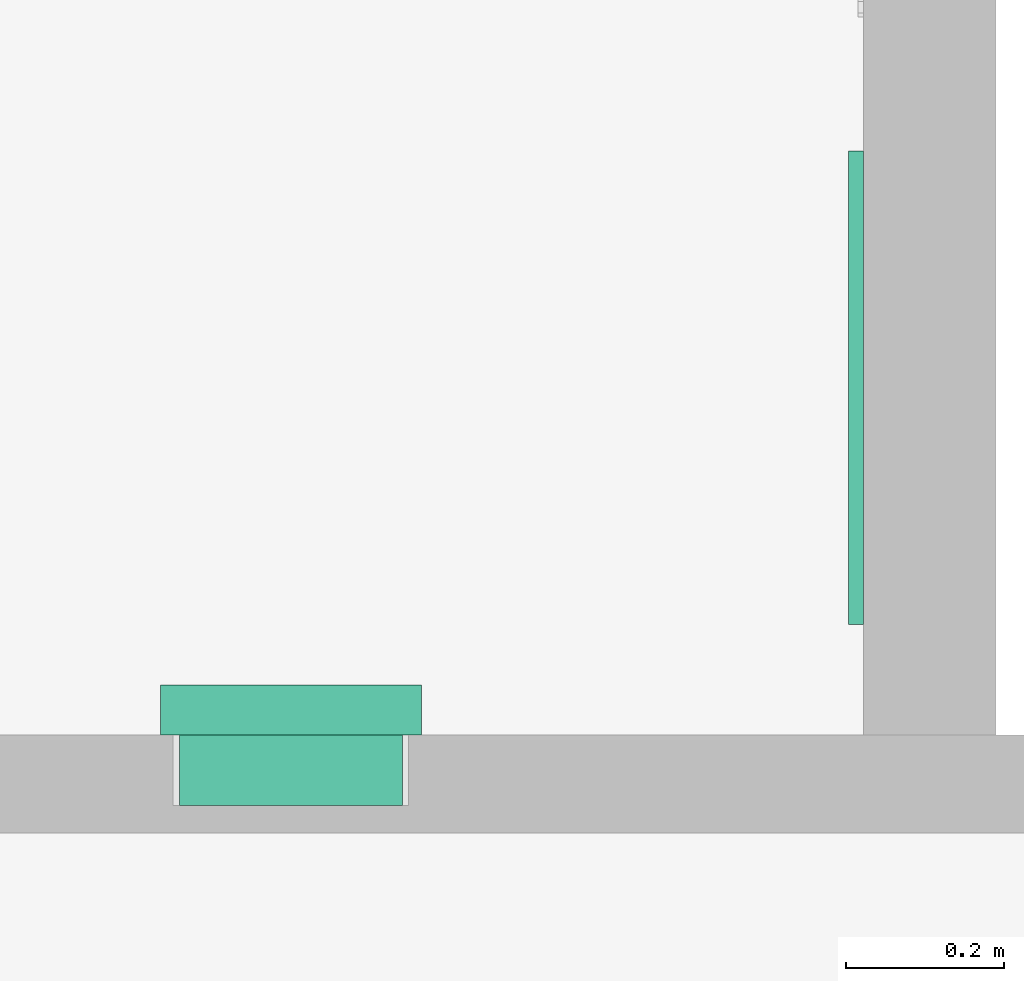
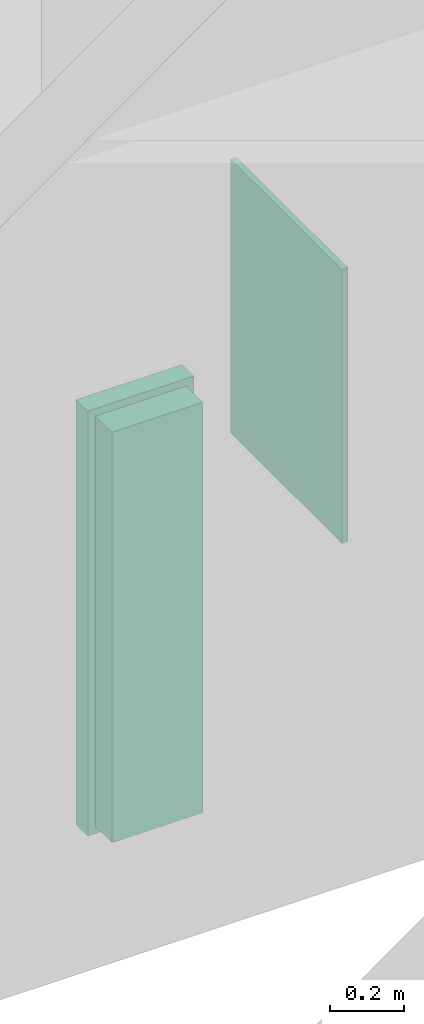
# One storey, part 57 of 82: 2 flow terminals.
"""IFC2X3 building model written with IfcOpenShell, lengths in metres."""

from ifc_helpers import new_model, entity, si_unit, converted_unit, frame, origin, origin_2d_with_axis, place, context, project, spatial, rectangle, extrude, face_set, surface_model, source, transform, mapped, type_object, type_shapes, element, save


model = new_model("IFC2X3")

# Units and contexts
model_context = context("Model", 3, precision=1e-09, world=origin())
plan_context = context("Plan", 3, precision=1e-09, world=origin())
ifc_project = project(units=[si_unit("LENGTHUNIT", "METRE"), si_unit("AREAUNIT", "SQUARE_METRE"), si_unit("VOLUMEUNIT", "CUBIC_METRE"), converted_unit("PLANEANGLEUNIT", "DEGREE", entity("IfcRatioMeasure", 0.01745329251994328), si_unit("PLANEANGLEUNIT", "RADIAN"), dimensions=[0, 0, 0, 0, 0, 0, 0]), si_unit("TIMEUNIT", "SECOND")], contexts=[model_context, plan_context])

# Site, building, storey, space
site_placement = place(None, origin())
site = spatial("IfcSite", under=ifc_project, at=site_placement, Name="Default", CompositionType="ELEMENT")
building_placement = place(site_placement, origin())
building = spatial("IfcBuilding", under=site, at=building_placement, CompositionType="ELEMENT")
storey_placement = place(building_placement, origin())
storey = spatial("IfcBuildingStorey", under=building, at=storey_placement, Name="First Floor", CompositionType="ELEMENT", Elevation=-3.531500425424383e-13)
space_placement = place(storey_placement, origin())
space = spatial("IfcSpace", under=storey, at=space_placement, Name="1B05", CompositionType="ELEMENT", InteriorOrExteriorSpace="INTERNAL")

# Flow terminals
sanitary_terminal_type_1 = type_object("IfcSanitaryTerminalType", Name="Semi-Recessed", PredefinedType="NOTDEFINED")
shared_shape_1 = source(origin(), model_context, "Body", "SurfaceModel", [
    surface_model("IfcFaceBasedSurfaceModel", [(0.3047999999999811, 1.371600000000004, 0.006350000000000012), (0.02539999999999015, 1.371600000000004, 0.006350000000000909), (0.02539999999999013, 0.02540000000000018, 0.006350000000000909), (0.3047999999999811, 0.02540000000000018, 0.006350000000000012), (0.3047999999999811, 1.371600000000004, 0.0), (0.02539999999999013, 1.371600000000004, 0.0), (0.02539999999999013, 0.02540000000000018, 0.0), (0.3047999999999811, 0.02540000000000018, 0.0), (0.3047999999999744, 0.8683625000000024, 0.0314087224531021), (0.304799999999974, 0.8683625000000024, 0.0), (0.304799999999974, 1.371600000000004, 0.0), (0.3047999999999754, 1.371600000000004, 0.1396999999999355), (0.3047999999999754, 0.9274310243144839, 0.139699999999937), (0.3047999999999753, 0.9028355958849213, 0.1191121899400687), (0.304799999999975, 0.8840898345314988, 0.09308548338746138), (0.3047999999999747, 0.8723562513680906, 0.06323391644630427), (0.02539999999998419, 0.8683625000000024, 0.03140872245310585), (0.02539999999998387, 0.8683625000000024, 0.0), (0.02539999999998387, 1.371600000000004, 0.0), (0.02539999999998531, 1.371600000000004, 0.1396999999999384), (0.02539999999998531, 0.9274310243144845, 0.1396999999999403), (0.02539999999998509, 0.9028355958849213, 0.1191121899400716), (0.02539999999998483, 0.8840898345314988, 0.09308548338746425), (0.02539999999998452, 0.8723562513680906, 0.06323391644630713), (0.1650999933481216, 0.8971245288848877, 0.1125374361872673), (0.244423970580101, 0.8850007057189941, 0.0947267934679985), (0.3048000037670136, 0.8934627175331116, 0.1060988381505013), (0.225727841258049, 0.8897196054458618, 0.1024402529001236), (0.1240624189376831, 0.8936511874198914, 0.1080563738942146), (0.1443802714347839, 0.89626145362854, 0.1114614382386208), (0.02539999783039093, 0.8934627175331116, 0.1060988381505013), (0.2975995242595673, 0.8728225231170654, 0.06500939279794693), (0.2961554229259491, 0.8724397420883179, 0.06352298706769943), (0.08576729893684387, 0.8849983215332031, 0.09472260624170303), (0.05923719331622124, 0.8781034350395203, 0.0805450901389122), (0.06810294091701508, 0.8800443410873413, 0.08500713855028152), (0.02539999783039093, 0.8811564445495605, 0.08562259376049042), (0.03954862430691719, 0.8766331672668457, 0.07681932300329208), (0.04958875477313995, 0.8769928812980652, 0.07776296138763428), (0.02539999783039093, 0.8782230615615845, 0.07815969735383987), (0.03264534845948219, 0.875198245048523, 0.07281118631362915), (0.02539999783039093, 0.8767563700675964, 0.0744282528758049), (0.02539999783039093, 0.87602299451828, 0.07256253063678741), (0.2946777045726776, 0.8762261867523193, 0.07572414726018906), (0.3048000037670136, 0.8767563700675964, 0.0744282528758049), (0.3048000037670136, 0.8774896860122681, 0.07629397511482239), (0.2906513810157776, 0.8717893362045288, 0.0609215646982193), (0.3048000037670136, 0.871357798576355, 0.05527761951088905), (0.3048000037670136, 0.8718570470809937, 0.05925576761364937), (0.02539999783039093, 0.874556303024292, 0.06883108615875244), (0.03170676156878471, 0.8735430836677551, 0.0675705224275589), (0.03171554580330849, 0.8739543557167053, 0.06892137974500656), (0.104461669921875, 0.889717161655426, 0.1024366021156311), (0.02539999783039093, 0.8752896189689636, 0.07069680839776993), (0.03172433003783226, 0.8743656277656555, 0.07027223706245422), (0.03218483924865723, 0.8747819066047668, 0.07154171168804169), (0.185808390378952, 0.8962624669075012, 0.1114626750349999), (0.3048000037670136, 0.8703593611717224, 0.04732131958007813), (0.2280749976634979, 0.8709259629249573, 0.05697767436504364), (0.2061262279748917, 0.8936530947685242, 0.1080589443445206), (0.3048000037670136, 0.8752896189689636, 0.07069680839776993), (0.297547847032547, 0.8752022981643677, 0.07282306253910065), (0.2980738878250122, 0.8745774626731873, 0.0708826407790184), (0.2985999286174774, 0.8739525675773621, 0.06894221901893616), (0.3048000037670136, 0.874556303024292, 0.06883108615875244), (0.2709419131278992, 0.8781068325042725, 0.08055329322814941), (0.3048000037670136, 0.8811564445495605, 0.08562259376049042), (0.2620970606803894, 0.8800443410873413, 0.08500713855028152), (0.2805894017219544, 0.8769944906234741, 0.07776710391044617), (0.3048000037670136, 0.8782230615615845, 0.07815969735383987), (0.03435983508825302, 0.8722586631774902, 0.06284872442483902), (0.02539999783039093, 0.872106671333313, 0.06124484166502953), (0.0367727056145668, 0.8719081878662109, 0.06142202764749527), (0.2906513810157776, 0.8766331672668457, 0.07681932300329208), (0.02539999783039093, 0.8718570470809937, 0.05925576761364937), (0.3048000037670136, 0.8738229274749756, 0.06696536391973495), (0.2980997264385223, 0.8733875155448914, 0.06697580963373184), (0.3048000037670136, 0.872106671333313, 0.06124484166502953), (0.2947112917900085, 0.8720570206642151, 0.06203658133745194), (0.02539999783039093, 0.8738229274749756, 0.06696536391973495), (0.3048000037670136, 0.873089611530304, 0.06509964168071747), (0.02539999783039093, 0.8774896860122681, 0.07629397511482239), (0.03438528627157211, 0.8759323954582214, 0.07491400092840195), (0.03677724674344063, 0.8764464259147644, 0.07632055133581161), (0.03261014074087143, 0.8728178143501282, 0.0649920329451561), (0.02539999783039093, 0.8703593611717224, 0.04732131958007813), (0.1650999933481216, 0.8683624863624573, 0.03140872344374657), (0.03954862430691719, 0.8717893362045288, 0.0609215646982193), (0.1021250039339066, 0.8709259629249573, 0.05697767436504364), (0.02539999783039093, 0.871357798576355, 0.05527761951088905), (0.02539999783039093, 0.873089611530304, 0.06509964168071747), (0.2961127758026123, 0.8757142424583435, 0.07427360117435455), (0.3048000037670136, 0.87602299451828, 0.07256253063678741), (0.1650999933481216, 0.8701865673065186, 0.05300865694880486), (0.03954862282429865, 0.9617593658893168, 0.06092156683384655), (0.1650999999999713, 0.9617593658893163, 0.05300865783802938), (0.2906513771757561, 0.9617593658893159, 0.06092156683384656), (0.2927086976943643, 0.9617593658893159, 0.06119241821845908), (0.2946258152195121, 0.9617593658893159, 0.06198651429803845), (0.2962720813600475, 0.9617593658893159, 0.06324973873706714), (0.2975353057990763, 0.9617593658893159, 0.06489600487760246), (0.2983294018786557, 0.9617593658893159, 0.06681312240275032), (0.2986002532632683, 0.9617593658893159, 0.06887044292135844), (0.2983294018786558, 0.9617593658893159, 0.07092776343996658), (0.2975353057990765, 0.9617593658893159, 0.0728448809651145), (0.2962720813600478, 0.9617593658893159, 0.07449114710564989), (0.2946258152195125, 0.9617593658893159, 0.07575437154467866), (0.2927086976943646, 0.9617593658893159, 0.07654846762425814), (0.2906513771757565, 0.9617593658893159, 0.07681931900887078), (0.2806776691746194, 0.9617593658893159, 0.07775040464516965), (0.2710486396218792, 0.9617593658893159, 0.0805114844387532), (0.2620970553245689, 0.9617593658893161, 0.0850071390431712), (0.2316919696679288, 0.9617593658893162, 0.1002429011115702), (0.1989754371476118, 0.9617593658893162, 0.1095287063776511), (0.1651000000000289, 0.9617593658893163, 0.1125374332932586), (0.1312245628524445, 0.9617593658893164, 0.109528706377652), (0.09850803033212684, 0.9617593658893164, 0.1002429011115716), (0.06810294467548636, 0.9617593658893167, 0.08500713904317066), (0.05915136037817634, 0.9617593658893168, 0.08051148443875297), (0.04952233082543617, 0.9617593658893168, 0.07775040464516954), (0.03954862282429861, 0.9617593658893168, 0.07681931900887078), (0.03749130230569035, 0.9617593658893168, 0.0765484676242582), (0.03557418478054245, 0.9617593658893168, 0.07575437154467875), (0.03392791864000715, 0.9617593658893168, 0.07449114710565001), (0.03266469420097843, 0.9617593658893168, 0.07284488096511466), (0.03187059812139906, 0.9617593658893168, 0.07092776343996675), (0.03159974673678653, 0.9617593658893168, 0.06887044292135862), (0.03187059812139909, 0.9617593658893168, 0.06681312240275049), (0.03266469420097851, 0.9617593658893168, 0.0648960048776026), (0.03392791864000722, 0.9617593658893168, 0.06324973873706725), (0.03557418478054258, 0.9617593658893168, 0.06198651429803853), (0.03749130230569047, 0.9617593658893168, 0.06119241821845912), (0.3302000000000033, 1.397000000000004, 0.1523999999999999), (0.0, 1.397000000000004, 0.152400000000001), (0.0, 0.0, 0.152400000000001), (0.3302000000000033, 0.0, 0.1523999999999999), (0.03175000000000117, 0.7016793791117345, 0.1524000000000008), (0.03175000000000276, 0.8960819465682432, 0.1524000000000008), (0.03192255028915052, 0.8975521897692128, 0.1524000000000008), (0.03243082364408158, 0.8989425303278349, 0.1524000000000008), (0.03324719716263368, 0.9001774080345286, 0.1524000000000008), (0.03432730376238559, 0.9011897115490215, 0.1524000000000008), (0.03561244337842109, 0.9019244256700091, 0.1524000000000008), (0.03703277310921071, 0.9023416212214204, 0.1524000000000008), (0.1222300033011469, 0.9119737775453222, 0.1524000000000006), (0.2079699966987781, 0.911973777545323, 0.1524000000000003), (0.2931672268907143, 0.902341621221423, 0.1524), (0.2945875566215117, 0.9019244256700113, 0.1524), (0.2958726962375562, 0.9011897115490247, 0.1524), (0.2969528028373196, 0.9001774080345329, 0.1524), (0.297769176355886, 0.8989425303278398, 0.1524), (0.2982774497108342, 0.8975521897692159, 0.1524), (0.2984500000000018, 0.8960819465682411, 0.1524), (0.2984500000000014, 0.7016793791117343, 0.1524), (0.2982774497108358, 0.7002091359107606, 0.1524), (0.2977691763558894, 0.6988187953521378, 0.1524), (0.2969528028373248, 0.697583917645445, 0.1524), (0.2958726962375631, 0.6965716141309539, 0.1524), (0.29458755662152, 0.6958369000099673, 0.1524), (0.2931672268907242, 0.6954197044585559, 0.1524), (0.2079699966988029, 0.6857875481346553, 0.1524000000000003), (0.1222300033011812, 0.6857875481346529, 0.1524000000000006), (0.03703277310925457, 0.6954197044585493, 0.1524000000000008), (0.03561244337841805, 0.6958369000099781, 0.1524000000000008), (0.0343273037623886, 0.6965716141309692, 0.1524000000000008), (0.03324719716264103, 0.6975839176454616, 0.1524000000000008), (0.03243082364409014, 0.698818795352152, 0.1524000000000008), (0.03192255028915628, 0.7002091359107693, 0.1524000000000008), (0.3063874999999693, 1.373187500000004, 0.0), (0.02381249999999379, 1.373187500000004, 0.0), (0.02381249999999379, 0.02381250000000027, 0.0), (0.3063874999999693, 0.02381250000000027, 0.0), (0.3047999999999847, 1.371600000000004, 0.0), (0.3047999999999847, 0.02540000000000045, 0.0), (0.02539999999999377, 0.02540000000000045, 0.0), (0.02539999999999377, 1.371600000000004, 0.0), (0.304799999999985, 1.371600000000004, 0.08889999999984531), (0.3047999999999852, 1.371600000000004, 0.1396999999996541), (0.3047999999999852, 0.02540000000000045, 0.1396999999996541), (0.304799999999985, 0.02540000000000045, 0.08889999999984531), (0.02539999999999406, 0.02540000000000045, 0.08889999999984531), (0.02539999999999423, 0.02540000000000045, 0.139699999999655), (0.02539999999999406, 1.371600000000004, 0.08889999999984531), (0.02539999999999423, 1.371600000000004, 0.139699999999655), (0.02381249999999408, 1.373187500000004, 0.08889999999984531), (0.3063874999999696, 1.373187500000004, 0.08889999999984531), (0.02381249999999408, 0.02381250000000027, 0.08889999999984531), (0.3063874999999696, 0.02381250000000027, 0.08889999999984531), (0.3302000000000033, 1.397000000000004, 0.08889999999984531), (0.0, 1.397000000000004, 0.08889999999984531), (0.0, 0.0, 0.08889999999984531), (0.3302000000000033, 0.0, 0.08889999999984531), (0.3302000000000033, 1.397000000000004, 0.1396999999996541), (0.0, 1.397000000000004, 0.1396999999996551), (0.0, 0.0, 0.1396999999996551), (0.3302000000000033, 0.0, 0.1396999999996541), (0.0317500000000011, 0.7016793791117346, 0.139699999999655), (0.03175000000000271, 0.8960819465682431, 0.139699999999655), (0.03192255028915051, 0.8975521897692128, 0.139699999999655), (0.03243082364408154, 0.8989425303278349, 0.139699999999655), (0.03324719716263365, 0.9001774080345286, 0.139699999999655), (0.03432730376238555, 0.9011897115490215, 0.139699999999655), (0.03561244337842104, 0.9019244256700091, 0.139699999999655), (0.03703277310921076, 0.9023416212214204, 0.139699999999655), (0.1222300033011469, 0.9119737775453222, 0.1396999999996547), (0.207969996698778, 0.911973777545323, 0.1396999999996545), (0.2931672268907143, 0.902341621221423, 0.1396999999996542), (0.2945875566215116, 0.9019244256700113, 0.1396999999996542), (0.2958726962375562, 0.9011897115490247, 0.1396999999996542), (0.2969528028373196, 0.9001774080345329, 0.1396999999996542), (0.2977691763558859, 0.8989425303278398, 0.1396999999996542), (0.2982774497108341, 0.8975521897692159, 0.1396999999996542), (0.2984500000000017, 0.8960819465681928, 0.1396999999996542), (0.2984500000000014, 0.7016793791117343, 0.1396999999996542), (0.2982774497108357, 0.7002091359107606, 0.1396999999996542), (0.2977691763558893, 0.6988187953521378, 0.1396999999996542), (0.2969528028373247, 0.697583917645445, 0.1396999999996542), (0.295872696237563, 0.6965716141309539, 0.1396999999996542), (0.29458755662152, 0.6958369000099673, 0.1396999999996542), (0.2931672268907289, 0.6954197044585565, 0.1396999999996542), (0.2079699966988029, 0.6857875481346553, 0.1396999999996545), (0.1222300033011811, 0.6857875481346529, 0.1396999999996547), (0.0370327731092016, 0.6954197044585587, 0.139699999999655), (0.03561244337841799, 0.6958369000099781, 0.139699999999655), (0.03432730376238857, 0.6965716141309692, 0.139699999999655), (0.03324719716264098, 0.6975839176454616, 0.139699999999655), (0.03243082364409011, 0.698818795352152, 0.139699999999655), (0.03192255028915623, 0.7002091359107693, 0.139699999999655), (0.02698749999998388, 0.6774923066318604, 0.1206361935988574), (0.02698749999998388, 0.6858000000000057, 0.1206361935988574), (0.02698749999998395, 0.6858000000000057, 0.1397000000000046), (0.02698749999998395, 0.0253999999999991, 0.1397000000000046), (0.02698749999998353, 0.0253999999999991, 0.007937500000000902), (0.02698749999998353, 0.7076898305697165, 0.007937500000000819), (0.3032124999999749, 0.6774923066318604, 0.1206361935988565), (0.3032124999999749, 0.6858000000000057, 0.1206361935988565), (0.3032124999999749, 0.6858000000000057, 0.1397000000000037), (0.3032124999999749, 0.0253999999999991, 0.1397000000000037), (0.3032124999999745, 0.0253999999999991, 0.007937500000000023), (0.3032124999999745, 0.7076898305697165, 0.007937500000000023)], [face_set([[[0, 1, 2, 3]], [[4, 5, 6, 7]], [[1, 0, 4, 5]], [[2, 6, 5, 1]], [[3, 7, 6, 2]], [[0, 3, 7, 4]]]), face_set([[[8, 9, 10, 11, 12, 13, 14, 15]], [[16, 17, 18, 19, 20, 21, 22, 23]], [[9, 8, 16, 17]], [[10, 18, 17, 9]], [[11, 19, 18, 10]], [[12, 11, 19, 20]], [[24, 20, 21]], [[25, 26, 27]], [[28, 29, 21]], [[28, 21, 30]], [[15, 31, 32]], [[22, 33, 30]], [[24, 21, 29]], [[34, 35, 36]], [[37, 38, 39]], [[40, 41, 42]], [[39, 38, 34]], [[22, 35, 33]], [[39, 34, 36]], [[43, 44, 45]], [[46, 47, 48]], [[49, 50, 51]], [[33, 52, 30]], [[53, 54, 55]], [[24, 56, 13]], [[57, 47, 58]], [[24, 13, 12]], [[13, 56, 59]], [[59, 27, 26]], [[60, 61, 62]], [[62, 63, 64]], [[24, 12, 20]], [[55, 42, 53]], [[65, 66, 67]], [[25, 67, 14]], [[25, 14, 26]], [[65, 68, 69]], [[66, 65, 69]], [[70, 71, 72]], [[69, 68, 73]], [[72, 71, 74]], [[26, 13, 59]], [[54, 53, 49]], [[64, 60, 62]], [[75, 63, 76]], [[46, 77, 78]], [[79, 50, 49]], [[80, 76, 31]], [[39, 81, 37]], [[41, 82, 81]], [[49, 51, 54]], [[81, 82, 83]], [[40, 82, 41]], [[70, 84, 23]], [[84, 50, 79]], [[85, 16, 86]], [[28, 30, 52]], [[70, 23, 71]], [[87, 72, 74]], [[85, 88, 89]], [[87, 89, 88]], [[74, 89, 87]], [[84, 90, 23]], [[58, 47, 46]], [[35, 22, 36]], [[63, 75, 64]], [[91, 61, 92]], [[45, 73, 43]], [[80, 75, 76]], [[61, 60, 92]], [[15, 32, 78]], [[45, 69, 73]], [[92, 44, 91]], [[66, 14, 67]], [[84, 79, 90]], [[85, 93, 88]], [[86, 57, 93]], [[31, 15, 80]], [[77, 15, 78]], [[42, 55, 40]], [[58, 93, 57]], [[77, 46, 48]], [[8, 57, 86]], [[37, 81, 83]], [[44, 43, 91]], [[85, 86, 93]], [[94, 95, 96, 97, 98, 99, 100, 101, 102, 103, 104, 105, 106, 107, 108, 109, 110, 111, 112, 113, 114, 115, 116, 117, 118, 119, 120, 121, 122, 123, 124, 125, 126, 127, 128, 129, 130, 131]], [[95, 94, 87, 88, 93]], [[96, 95, 93, 58, 46]], [[46, 96, 97]], [[78, 98, 99]], [[97, 98, 78]], [[99, 100, 31]], [[46, 97, 78]], [[63, 31, 101]], [[31, 78, 99]], [[63, 101, 102]], [[101, 31, 100]], [[61, 104, 105]], [[43, 106, 107]], [[105, 106, 43]], [[73, 107, 108]], [[63, 103, 61]], [[103, 63, 102]], [[61, 103, 104]], [[61, 105, 43]], [[107, 73, 43]], [[108, 68, 73]], [[68, 108, 109]], [[109, 65, 68]], [[110, 67, 65]], [[67, 110, 111]], [[109, 110, 65]], [[111, 112, 25]], [[25, 67, 111]], [[27, 25, 112]], [[112, 59, 27]], [[113, 114, 56]], [[56, 59, 113]], [[24, 56, 114]], [[113, 59, 112]], [[114, 115, 29]], [[29, 24, 114]], [[28, 29, 115]], [[115, 116, 28]], [[116, 117, 33]], [[33, 52, 116]], [[35, 33, 117]], [[116, 52, 28]], [[118, 34, 35]], [[35, 117, 118]], [[118, 119, 34]], [[120, 37, 38]], [[38, 119, 120]], [[34, 119, 38]], [[37, 120, 121]], [[82, 122, 123]], [[121, 122, 83]], [[123, 124, 40]], [[37, 121, 83]], [[83, 122, 82]], [[40, 125, 54]], [[40, 82, 123]], [[54, 125, 126]], [[40, 124, 125]], [[84, 127, 128]], [[129, 84, 128]], [[72, 130, 131]], [[129, 130, 70]], [[87, 131, 94]], [[127, 50, 126]], [[127, 84, 50]], [[126, 50, 54]], [[70, 84, 129]], [[130, 72, 70]], [[131, 87, 72]]]), face_set([[[132, 133, 134, 135], [136, 137, 138, 139, 140, 141, 142, 143, 144, 145, 146, 147, 148, 149, 150, 151, 152, 153, 154, 155, 156, 157, 158, 159, 160, 161, 162, 163, 164, 165, 166, 167]], [[168, 169, 170, 171], [172, 173, 174, 175]], [[172, 176, 177, 178, 179, 173]], [[173, 174, 180, 181, 178, 179]], [[174, 175, 182, 183, 181, 180]], [[175, 182, 183, 177, 176, 172]], [[168, 169, 184, 185]], [[169, 184, 186, 170]], [[170, 186, 187, 171]], [[171, 168, 185, 187]], [[188, 189, 190, 191], [185, 187, 186, 184]], [[133, 132, 192, 188, 189, 193]], [[134, 133, 193, 189, 190, 194]], [[135, 134, 194, 190, 191, 195]], [[132, 135, 195, 191, 188, 192]], [[177, 183, 181, 178], [196, 197, 198, 199, 200, 201, 202, 203, 204, 205, 206, 207, 208, 209, 210, 211, 212, 213, 214, 215, 216, 217, 218, 219, 220, 221, 222, 223, 224, 225, 226, 227]], [[137, 136, 196, 197]], [[198, 197, 137, 138]], [[199, 198, 138, 139]], [[139, 140, 200, 199]], [[202, 201, 141, 142]], [[203, 202, 142, 143]], [[140, 141, 201, 200]], [[203, 143, 144, 204]], [[145, 205, 204, 144]], [[205, 145, 146, 206]], [[207, 206, 146, 147]], [[208, 207, 147, 148]], [[148, 149, 209, 208]], [[212, 211, 151, 152]], [[211, 210, 150, 151]], [[149, 150, 210, 209]], [[153, 213, 212, 152]], [[214, 213, 153, 154]], [[215, 214, 154, 155]], [[155, 156, 216, 215]], [[218, 217, 157, 158]], [[219, 218, 158, 159]], [[156, 157, 217, 216]], [[219, 159, 160, 220]], [[161, 221, 220, 160]], [[221, 161, 162, 222]], [[223, 222, 162, 163]], [[224, 223, 163, 164]], [[164, 165, 225, 224]], [[227, 226, 166, 167]], [[196, 227, 167, 136]], [[165, 166, 226, 225]]]), face_set([[[228, 229, 230, 231, 232, 233]], [[234, 235, 236, 237, 238, 239]], [[233, 228, 234, 239]], [[232, 238, 239, 233]], [[231, 237, 238, 232]], [[230, 231, 237, 236]], [[229, 230, 236, 235]], [[228, 234, 235, 229]]])]),
])
type_shapes(sanitary_terminal_type_1, [shared_shape_1])
flow_terminal_1_placement = place(space_placement, frame((-5.659975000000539, 21.48109999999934, 0.3428999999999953), z_axis=(0.0, 1.0, 0.0), x_axis=(-1.0, 0.0, 0.0)))
element("IfcFlowTerminal", 1, at=flow_terminal_1_placement, inside=space, type_object=sanitary_terminal_type_1, Name="M_Towel Dispensers - receptical:Semi-Recessed:Semi-Recessed", ObjectType="Semi-Recessed", context=model_context, shape_type="MappedRepresentation", body=[
    mapped(shared_shape_1, transform((0.0, 0.0, 0.0), scale=1.0)),
])
sanitary_terminal_type_2 = type_object("IfcSanitaryTerminalType", Name="Mirror 600mm x 900mm", PredefinedType="NOTDEFINED")
shared_shape_2 = source(origin(), model_context, "Body", "SweptSolid", [
    extrude(rectangle(XDim=0.01905, YDim=0.5999999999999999, at=origin_2d_with_axis()), frame((0.02447030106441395, 0.093525, 1.0), z_axis=(0.0, 0.0, 1.0), x_axis=(0.0, -1.0, 0.0)), (0.0, 0.0, 1.0), 0.8999999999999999),
])
type_shapes(sanitary_terminal_type_2, [shared_shape_2])
flow_terminal_2_placement = place(space_placement, frame((-5.015975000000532, 21.98552969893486, -0.08500000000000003), z_axis=(0.0, 0.0, 1.0), x_axis=(0.0, 1.0, 0.0)))
element("IfcFlowTerminal", 2, at=flow_terminal_2_placement, inside=space, type_object=sanitary_terminal_type_2, Name="M_Mirror:Mirror 600mm x 900mm:Mirror 600mm x 900mm", ObjectType="Mirror 600mm x 900mm", context=model_context, shape_type="MappedRepresentation", body=[
    mapped(shared_shape_2, transform((0.0, 0.0, 0.0), scale=1.0)),
])

save(model, "model.ifc")
